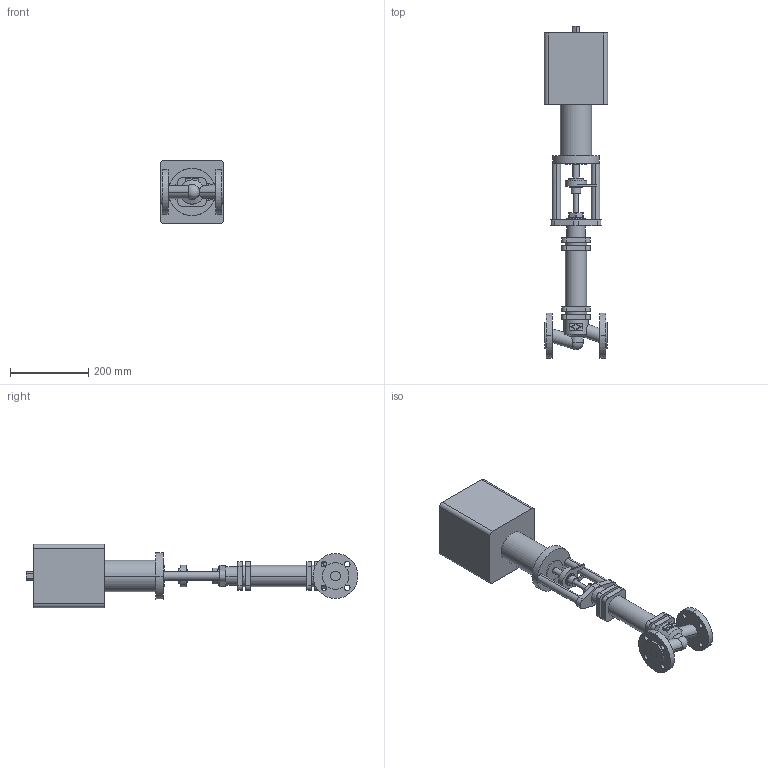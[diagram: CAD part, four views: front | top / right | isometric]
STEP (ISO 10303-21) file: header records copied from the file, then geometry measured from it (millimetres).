
FILE_DESCRIPTION( ( '' ), '1' );
FILE_NAME( 'F:/DE-SHS/TB/OR/04-Sonstiges/daten/files_3d/441-FR2.2/441-PN25-FR2_2/c000004556.stp', '2014-11-06T11:28:09', ( '' ), ( '' ), ' ', ' ', ' ' );
FILE_SCHEMA( ( 'CONFIG_CONTROL_DESIGN' ) );
Length unit declared in the file: millimetre
Products named in the file (2): 1; 2
Bounding box: 162 x 849.5 x 162 mm (x, y, z)
Volume: 7192914.6 mm3; surface area: 416739.1 mm2
Topology: 2 solids, 2 shells, 199 faces, 492 edges, 326 vertices
Faces by surface type: cylinder 100, plane 96, cone 2, sphere 1
Entity records: 6389 total; most frequent: CARTESIAN_POINT 1353, DIRECTION 1091, ORIENTED_EDGE 980, EDGE_CURVE 490, AXIS2_PLACEMENT_3D 414, VERTEX_POINT 326, LINE 263, VECTOR 263
